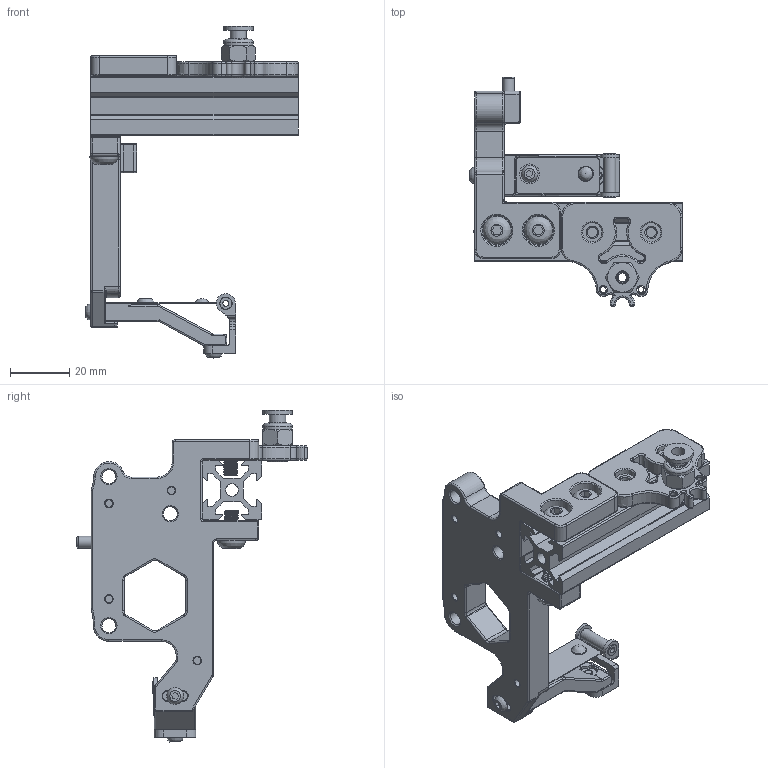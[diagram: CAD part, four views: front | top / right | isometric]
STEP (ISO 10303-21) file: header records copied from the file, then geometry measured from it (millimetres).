
FILE_DESCRIPTION(/* description */ (''),/* implementation_level */ '2;1');
FILE_NAME(/* name */ 'Dock v10.step',/* time_stamp */ '2024-08-30T14:17:21+07:00',/* author */ (''),/* organization */ (''),/* preprocessor_version */ 'ST-DEVELOPER v20',/* originating_system */ 'Autodesk Translation Framework v13.14.0.145',/* authorisation */ '');
FILE_SCHEMA (('AUTOMOTIVE_DESIGN { 1 0 10303 214 3 1 1 }'));
Products named in the file (25): Dock; Hardware (1); 8 x 5mm magnet; m4 x 15mm dowel pin; 8 x 5mm magnet (1); 8 x 5mm magnet (2); m5 x 10mm bhcs; m5 x 8mm bhcs; m3 x 6mm bhcs; m3 hex nut (3); m3 hex nut; m3 washer; ptfe tube 15mm; m3 x 10mm bhcs; m3 brass insert; AA battery terminal; m5 x 8mm bhcs (1); m3 x 6mm bhcs (1); 8 x 5mm magnet (3); Nozzle Blocker Mount; BBL Nozzle Wiper; Dock Body (2); PC4-M10 pneumatic coupling v1; 2020 Extrusion; Umbilical Extrusion Mount
Assembly tree (24 placements, depth 3):
  Dock
    Hardware (1)
      8 x 5mm magnet
      m4 x 15mm dowel pin
      8 x 5mm magnet (1)
      8 x 5mm magnet (2)
      m5 x 10mm bhcs
      m5 x 8mm bhcs
      m3 x 6mm bhcs
      m3 hex nut (3)
      m3 hex nut
      m3 washer
      ptfe tube 15mm
      m3 x 10mm bhcs
      m3 brass insert
      AA battery terminal
      m5 x 8mm bhcs (1)
      m3 x 6mm bhcs (1)
      8 x 5mm magnet (3)
    Nozzle Blocker Mount
    BBL Nozzle Wiper
    Dock Body (2)
    PC4-M10 pneumatic coupling v1
    2020 Extrusion
    Umbilical Extrusion Mount
Bounding box: 71.65 x 77.59 x 111.96 mm (x, y, z)
Volume: 46464.6 mm3; surface area: 35272.1 mm2
Topology: 25 solids, 25 shells, 1418 faces, 3627 edges, 2280 vertices
Faces by surface type: cylinder 594, plane 314, bspline 214, torus 149, cone 139, sphere 8
Full cylindrical faces by diameter (mm): 2 x3, 2.356 x44, 2.376 x10, 2.5 x14, 2.927 x41, 3 x3, 3.4 x7, 3.505 x1, 3.564 x1, 3.99 x10, 4 x2, 4.2 x4, 4.5 x3, 4.7 x4, 4.751 x1, 4.901 x19, 5.5 x6, 5.7 x3, 6.3 x1, 6.5 x2, 6.7 x1, 8 x4, 8.2 x3, 8.917 x4, 9.036 x3, 9.947 x1, 10 x6, 10.147 x3
Entity records: 81777 total; most frequent: CARTESIAN_POINT 48292, ORIENTED_EDGE 7232, DIRECTION 6509, EDGE_CURVE 3616, AXIS2_PLACEMENT_3D 2602, VERTEX_POINT 2280, EDGE_LOOP 1518, FACE_OUTER_BOUND 1418
